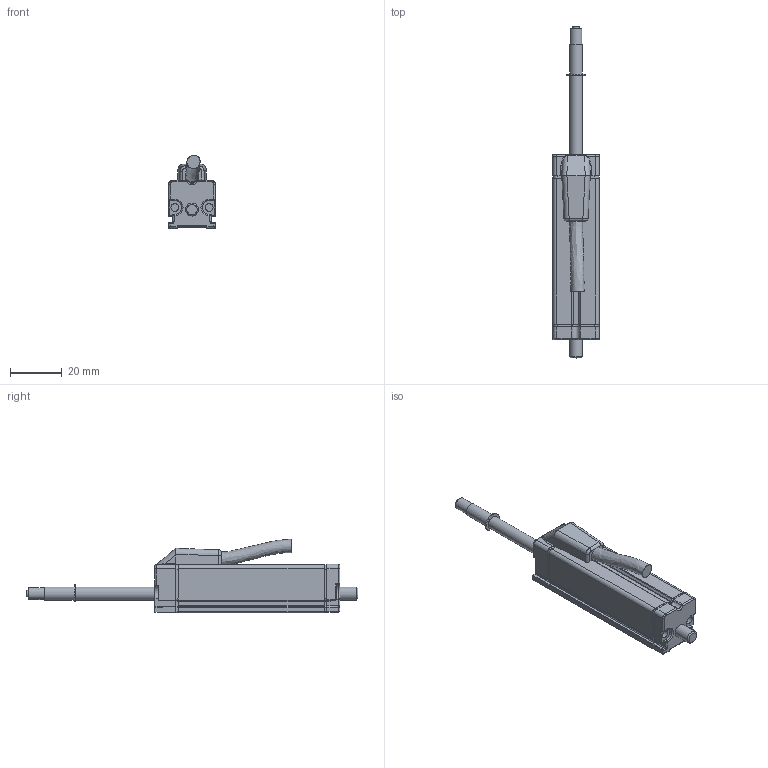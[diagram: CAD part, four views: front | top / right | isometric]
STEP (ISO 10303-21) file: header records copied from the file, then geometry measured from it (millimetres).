
FILE_DESCRIPTION(/* description */ (''),/* implementation_level */ '2;1');
FILE_NAME(/* name */ 'KTR3-25.stp',/* time_stamp */ '2020-06-12T16:00:29+08:00',/* author */ (''),/* organization */ (''),/* preprocessor_version */ 'ST-DEVELOPER v16',/* originating_system */ 'SIEMENS PLM Software NX 10.0',/* authorisation */ '');
FILE_SCHEMA (('AUTOMOTIVE_DESIGN { 1 0 10303 214 3 1 1 1 }'));
Length unit declared in the file: millimetre
Products named in the file (1): Admi0DD092C0l4r0
Bounding box: 18 x 127.85 x 28.3 mm (x, y, z)
Volume: 15300.8 mm3; surface area: 15842.4 mm2
Topology: 8 solids, 9 shells, 555 faces, 1496 edges, 952 vertices
Faces by surface type: plane 279, cylinder 184, bspline 43, cone 40, sphere 6, torus 3
Full cylindrical faces by diameter (mm): 2 x1, 2.4 x1, 3.2 x4, 4.5 x1, 4.6 x1, 5 x4, 5.5 x1
Entity records: 18289 total; most frequent: CARTESIAN_POINT 4407, ORIENTED_EDGE 2896, DIRECTION 2870, EDGE_CURVE 1448, AXIS2_PLACEMENT_3D 1001, VERTEX_POINT 940, LINE 868, VECTOR 868
